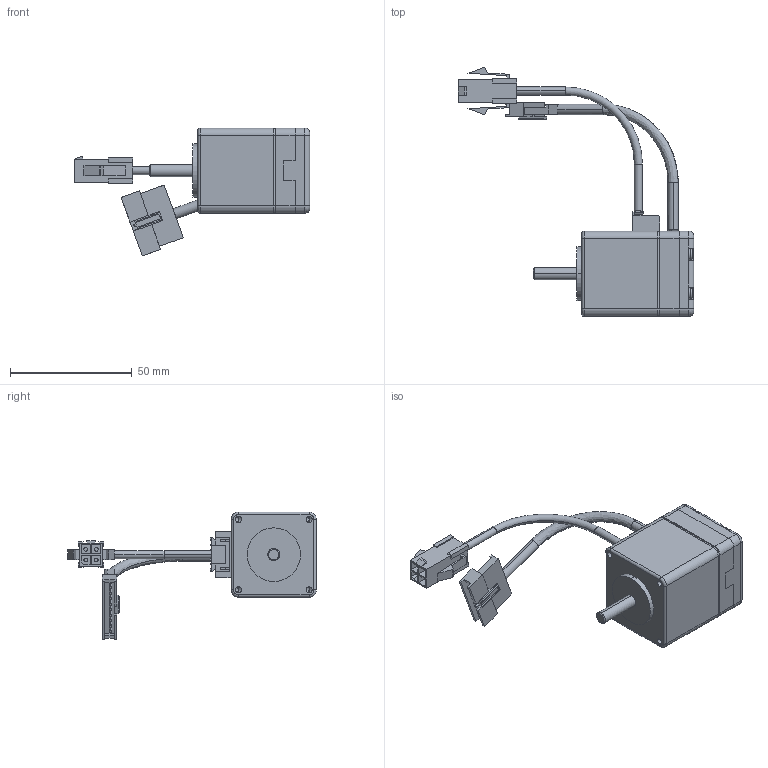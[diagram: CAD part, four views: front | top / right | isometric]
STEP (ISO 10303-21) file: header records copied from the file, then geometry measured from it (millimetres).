
FILE_DESCRIPTION (( 'STEP AP203' ), '1' );
FILE_NAME ('P11-MO-035-10-R00.STEP', '2018-12-12T06:20:10', ( '' ), ( '' ), 'SwSTEP 2.0', 'SolidWorks 2013', '' );
FILE_SCHEMA (( 'CONFIG_CONTROL_DESIGN' ));
Length unit declared in the file: millimetre
Products named in the file (10): 35陝 賅攪瞪錳摹-1_ル遽; PHR-6; 35M; 35陝 賅攪瞪錳摹-1; M41-EC-035-01-R00_ル遽; M41-EC-035-02-R00_ル遽; 20阿 浚内歹 纳捞喉急_钎霖; pan cross head_ks_KS 1023 PC- M2.6 x 16-N; P11-MO-035-10-R00; S6B-PH-K-S
Assembly tree (12 placements, depth 3):
  P11-MO-035-10-R00
    35M
    S6B-PH-K-S
    35陝 賅攪瞪錳摹-1
      35陝 賅攪瞪錳摹-1_ル遽
      PHR-6
    M41-EC-035-01-R00_ル遽
    M41-EC-035-02-R00_ル遽
    20阿 浚内歹 纳捞喉急_钎霖
    pan cross head_ks_KS 1023 PC- M2.6 x 16-N  x4
Bounding box: 96.75 x 102.2 x 52.54 mm (x, y, z)
Volume: 53057.2 mm3; surface area: 24926.7 mm2
Topology: 11 solids, 11 shells, 840 faces, 2136 edges, 1341 vertices
Faces by surface type: plane 521, cylinder 167, cone 109, torus 30, sphere 8, bspline 5
Entity records: 23334 total; most frequent: CARTESIAN_POINT 4076, DIRECTION 3791, ORIENTED_EDGE 3724, EDGE_CURVE 1862, LINE 1391, VECTOR 1391, AXIS2_PLACEMENT_3D 1200, VERTEX_POINT 1188
